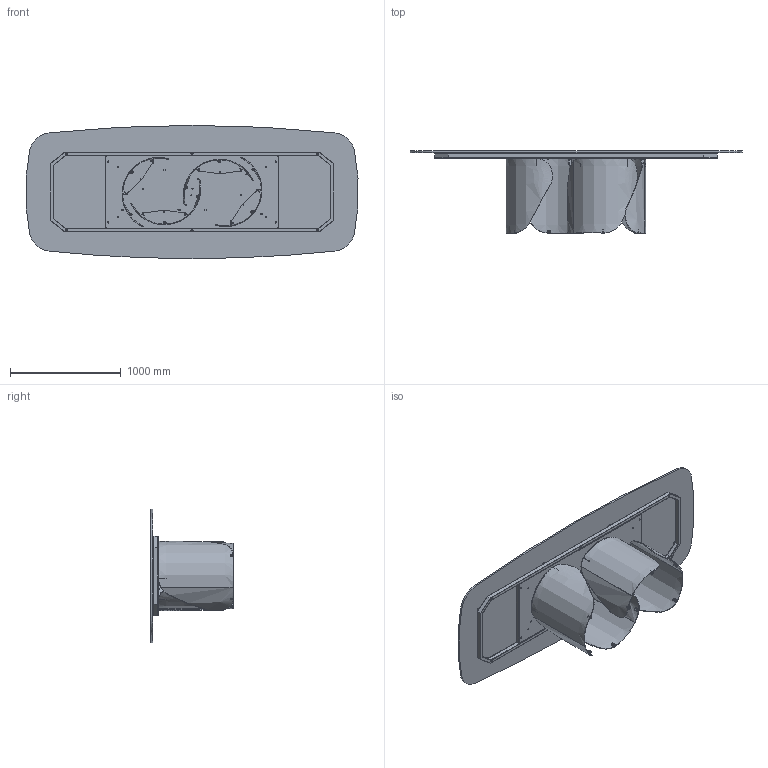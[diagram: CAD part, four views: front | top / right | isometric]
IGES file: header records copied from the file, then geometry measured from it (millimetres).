
Start section: SolidWorks IGES file using analytic representation for surfaces
Global section: file name: Y:\eforma\TECNICO\SOLIDWORKS\E-FORMA\1-TAVOLI\ONDA\02 parts\ON44G.IGS; native system: SolidWorks 2022; preprocessor: SolidWorks 2022; author: eforma.tech; date: 240806.154414; units: millimetre
Bounding box: 2991.72 x 741 x 1200 mm (x, y, z)
Volume: 67963194.1 mm3; surface area: 15432741 mm2
Topology: 83 solids, 83 shells, 1921 faces, 4395 edges, 2674 vertices
Faces by surface type: revolution 1125, plane 716, bspline 80
